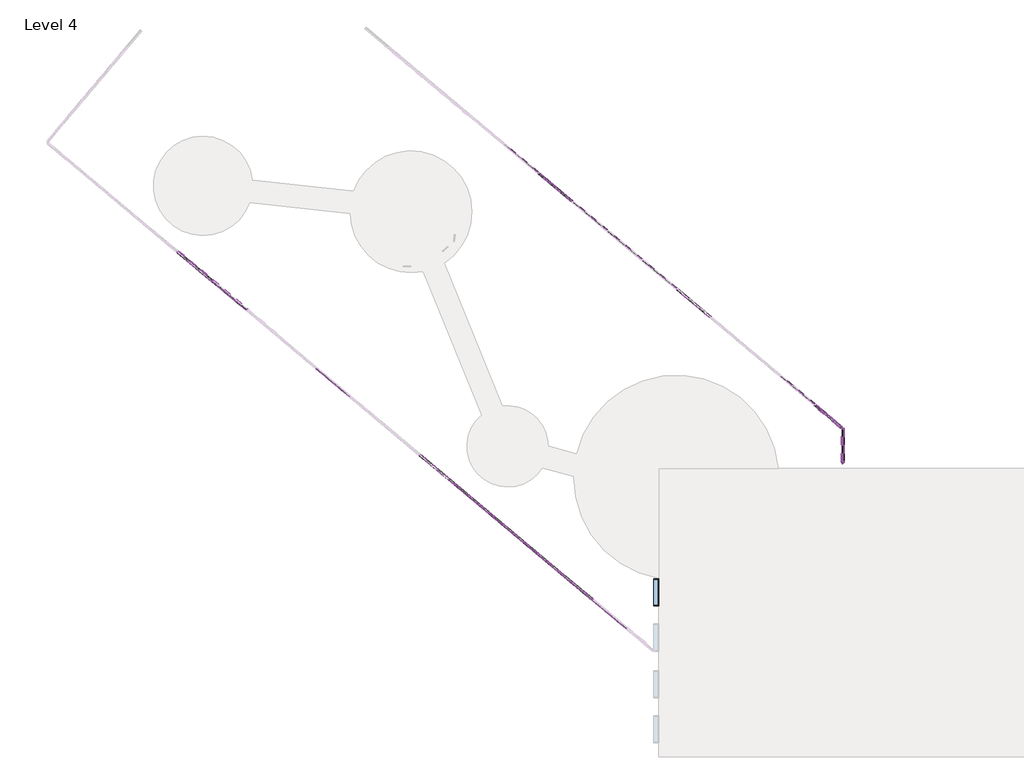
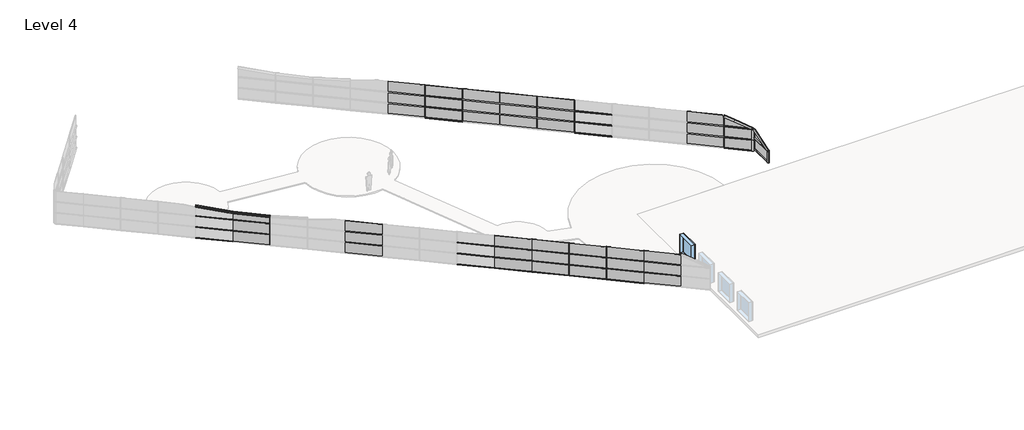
# One storey, part 2 of 4: 67 members, 44 plates, 1 window.
"""IFC4 building model written with IfcOpenShell, lengths in millimetres."""

from ifc_helpers import new_model, si_unit, origin, place, context, project, spatial, transform, mapped, element, save
from components import member_e6b937b8, member_1b704979, member_7ce4772e, member_9a31911a, member_5a82a5ce, member_eaba9652, member_34764c31, member_ec9694ca, member_e2c2cf32, member_db8f3720, member_5a81992d, member_508da999, member_c2863042, member_6fb3f5d3, member_3d656d0b, member_f7ad1dcf, system_panel_glazed_a2c5a472, system_panel_glazed_07eba4bf, system_panel_glazed_3cf833cb, system_panel_glazed_742ad3c2, system_panel_glazed_af818185, system_panel_glazed_8104afd5, system_panel_glazed_c1ebde9c, system_panel_glazed_03e450e4, fixed_6_x_6_52427b03

model = new_model("IFC4")

# Units and contexts
model_context = context("Model", 3, world=origin())
ifc_project = project(units=[si_unit("LENGTHUNIT", "METRE", prefix="MILLI")], contexts=[model_context])

# Site, building, storey
site = spatial("IfcSite", under=ifc_project)
building = spatial("IfcBuilding", under=site)
storey = spatial("IfcBuildingStorey", under=building, Name="Level 4", Elevation=9144.0)

# Members
placement = place(None, origin())
member_shape = member_e6b937b8(model_context)
element("IfcMember", 1, ObjectType="Rectangular Mullion : 1.5\" x 2.5\" rectangular", at=placement, inside=storey, context=model_context, shape_type="MappedRepresentation", body=[
    mapped(member_shape, transform((-25926.9227367, 30344.5515415, 10400.7444177), x_axis=(0.76604444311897, -0.6427876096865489, 0.0), y_axis=(0.6427876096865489, 0.76604444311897, 0.0), z_axis=(0.0, 0.0, 1.0))),
])
element("IfcMember", 2, ObjectType="Rectangular Mullion : 1.5\" x 2.5\" rectangular", at=placement, inside=storey, context=model_context, shape_type="MappedRepresentation", body=[
    mapped(member_shape, transform((-25926.9227367, 30344.5515415, 11467.5444177), x_axis=(0.76604444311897, -0.6427876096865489, 0.0), y_axis=(0.6427876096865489, 0.76604444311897, 0.0), z_axis=(0.0, 0.0, 1.0))),
])
element("IfcMember", 3, ObjectType="Rectangular Mullion : 1.5\" x 2.5\" rectangular", at=placement, inside=storey, context=model_context, shape_type="MappedRepresentation", body=[
    mapped(member_shape, transform((-25926.9227367, 30344.5515415, 12534.3444177), x_axis=(0.76604444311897, -0.6427876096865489, 0.0), y_axis=(0.6427876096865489, 0.76604444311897, 0.0), z_axis=(0.0, 0.0, 1.0))),
])
element("IfcMember", 4, ObjectType="Rectangular Mullion : 1.5\" x 2.5\" rectangular", at=placement, inside=storey, context=model_context, shape_type="MappedRepresentation", body=[
    mapped(member_shape, transform((-16587.3088862, 22507.6850042, 10400.7444177), x_axis=(0.76604444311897, -0.6427876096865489, 0.0), y_axis=(0.6427876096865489, 0.76604444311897, 0.0), z_axis=(0.0, 0.0, 1.0))),
])
element("IfcMember", 5, ObjectType="Rectangular Mullion : 1.5\" x 2.5\" rectangular", at=placement, inside=storey, context=model_context, shape_type="MappedRepresentation", body=[
    mapped(member_shape, transform((-7247.6950357, 14670.8184669, 10400.7444177), x_axis=(0.76604444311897, -0.6427876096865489, 0.0), y_axis=(0.6427876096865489, 0.76604444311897, 0.0), z_axis=(0.0, 0.0, 1.0))),
])
element("IfcMember", 6, ObjectType="Rectangular Mullion : 1.5\" x 2.5\" rectangular", at=placement, inside=storey, context=model_context, shape_type="MappedRepresentation", body=[
    mapped(member_shape, transform((-16587.3088862, 22507.6850042, 11467.5444177), x_axis=(0.76604444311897, -0.6427876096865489, 0.0), y_axis=(0.6427876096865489, 0.76604444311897, 0.0), z_axis=(0.0, 0.0, 1.0))),
])
element("IfcMember", 7, ObjectType="Rectangular Mullion : 1.5\" x 2.5\" rectangular", at=placement, inside=storey, context=model_context, shape_type="MappedRepresentation", body=[
    mapped(member_shape, transform((-7247.6950357, 14670.8184669, 11467.5444177), x_axis=(0.76604444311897, -0.6427876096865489, 0.0), y_axis=(0.6427876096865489, 0.76604444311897, 0.0), z_axis=(0.0, 0.0, 1.0))),
])
element("IfcMember", 8, ObjectType="Rectangular Mullion : 1.5\" x 2.5\" rectangular", at=placement, inside=storey, context=model_context, shape_type="MappedRepresentation", body=[
    mapped(member_shape, transform((-16587.3088862, 22507.6850042, 12534.3444177), x_axis=(0.76604444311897, -0.6427876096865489, 0.0), y_axis=(0.6427876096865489, 0.76604444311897, 0.0), z_axis=(0.0, 0.0, 1.0))),
])
element("IfcMember", 9, ObjectType="Rectangular Mullion : 1.5\" x 2.5\" rectangular", at=placement, inside=storey, context=model_context, shape_type="MappedRepresentation", body=[
    mapped(member_shape, transform((-22271.5874816, 1507.8868941, 10400.7444177), x_axis=(-0.76604444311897, 0.6427876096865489, 0.0), y_axis=(-0.6427876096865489, -0.76604444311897, 0.0), z_axis=(0.0, 0.0, 1.0))),
])
element("IfcMember", 10, ObjectType="Rectangular Mullion : 1.5\" x 2.5\" rectangular", at=placement, inside=storey, context=model_context, shape_type="MappedRepresentation", body=[
    mapped(member_shape, transform((-24606.4909442, 3467.1035284, 10400.7444177), x_axis=(-0.76604444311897, 0.6427876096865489, 0.0), y_axis=(-0.6427876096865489, -0.76604444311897, 0.0), z_axis=(0.0, 0.0, 1.0))),
])
element("IfcMember", 11, ObjectType="Rectangular Mullion : 1.5\" x 2.5\" rectangular", at=placement, inside=storey, context=model_context, shape_type="MappedRepresentation", body=[
    mapped(member_shape, transform((-26941.3944069, 5426.3201627, 10400.7444177), x_axis=(-0.76604444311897, 0.6427876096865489, 0.0), y_axis=(-0.6427876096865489, -0.76604444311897, 0.0), z_axis=(0.0, 0.0, 1.0))),
])
element("IfcMember", 12, ObjectType="Rectangular Mullion : 1.5\" x 2.5\" rectangular", at=placement, inside=storey, context=model_context, shape_type="MappedRepresentation", body=[
    mapped(member_shape, transform((-29276.2978695, 7385.536797, 10400.7444177), x_axis=(-0.76604444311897, 0.6427876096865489, 0.0), y_axis=(-0.6427876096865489, -0.76604444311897, 0.0), z_axis=(0.0, 0.0, 1.0))),
])
element("IfcMember", 13, ObjectType="Rectangular Mullion : 1.5\" x 2.5\" rectangular", at=placement, inside=storey, context=model_context, shape_type="MappedRepresentation", body=[
    mapped(member_shape, transform((-31611.2013321, 9344.7534314, 10400.7444177), x_axis=(-0.76604444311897, 0.6427876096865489, 0.0), y_axis=(-0.6427876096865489, -0.76604444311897, 0.0), z_axis=(0.0, 0.0, 1.0))),
])
element("IfcMember", 14, ObjectType="Rectangular Mullion : 1.5\" x 2.5\" rectangular", at=placement, inside=storey, context=model_context, shape_type="MappedRepresentation", body=[
    mapped(member_shape, transform((-22271.5874816, 1507.8868941, 11467.5444177), x_axis=(-0.76604444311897, 0.6427876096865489, 0.0), y_axis=(-0.6427876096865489, -0.76604444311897, 0.0), z_axis=(0.0, 0.0, 1.0))),
])
element("IfcMember", 15, ObjectType="Rectangular Mullion : 1.5\" x 2.5\" rectangular", at=placement, inside=storey, context=model_context, shape_type="MappedRepresentation", body=[
    mapped(member_shape, transform((-24606.4909442, 3467.1035284, 11467.5444177), x_axis=(-0.76604444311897, 0.6427876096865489, 0.0), y_axis=(-0.6427876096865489, -0.76604444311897, 0.0), z_axis=(0.0, 0.0, 1.0))),
])
element("IfcMember", 16, ObjectType="Rectangular Mullion : 1.5\" x 2.5\" rectangular", at=placement, inside=storey, context=model_context, shape_type="MappedRepresentation", body=[
    mapped(member_shape, transform((-26941.3944069, 5426.3201627, 11467.5444177), x_axis=(-0.76604444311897, 0.6427876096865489, 0.0), y_axis=(-0.6427876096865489, -0.76604444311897, 0.0), z_axis=(0.0, 0.0, 1.0))),
])
element("IfcMember", 17, ObjectType="Rectangular Mullion : 1.5\" x 2.5\" rectangular", at=placement, inside=storey, context=model_context, shape_type="MappedRepresentation", body=[
    mapped(member_shape, transform((-29276.2978695, 7385.536797, 11467.5444177), x_axis=(-0.76604444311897, 0.6427876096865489, 0.0), y_axis=(-0.6427876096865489, -0.76604444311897, 0.0), z_axis=(0.0, 0.0, 1.0))),
])
element("IfcMember", 18, ObjectType="Rectangular Mullion : 1.5\" x 2.5\" rectangular", at=placement, inside=storey, context=model_context, shape_type="MappedRepresentation", body=[
    mapped(member_shape, transform((-31611.2013321, 9344.7534314, 11467.5444177), x_axis=(-0.76604444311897, 0.6427876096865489, 0.0), y_axis=(-0.6427876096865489, -0.76604444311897, 0.0), z_axis=(0.0, 0.0, 1.0))),
])
element("IfcMember", 19, ObjectType="Rectangular Mullion : 1.5\" x 2.5\" rectangular", at=placement, inside=storey, context=model_context, shape_type="MappedRepresentation", body=[
    mapped(member_shape, transform((-24606.4909442, 3467.1035284, 12534.3444177), x_axis=(-0.76604444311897, 0.6427876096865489, 0.0), y_axis=(-0.6427876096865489, -0.76604444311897, 0.0), z_axis=(0.0, 0.0, 1.0))),
])
element("IfcMember", 20, ObjectType="Rectangular Mullion : 1.5\" x 2.5\" rectangular", at=placement, inside=storey, context=model_context, shape_type="MappedRepresentation", body=[
    mapped(member_shape, transform((-26941.3944069, 5426.3201627, 12534.3444177), x_axis=(-0.76604444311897, 0.6427876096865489, 0.0), y_axis=(-0.6427876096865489, -0.76604444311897, 0.0), z_axis=(0.0, 0.0, 1.0))),
])
element("IfcMember", 21, ObjectType="Rectangular Mullion : 1.5\" x 2.5\" rectangular", at=placement, inside=storey, context=model_context, shape_type="MappedRepresentation", body=[
    mapped(member_shape, transform((-29276.2978695, 7385.536797, 12534.3444177), x_axis=(-0.76604444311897, 0.6427876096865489, 0.0), y_axis=(-0.6427876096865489, -0.76604444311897, 0.0), z_axis=(0.0, 0.0, 1.0))),
])
element("IfcMember", 22, ObjectType="Rectangular Mullion : 1.5\" x 2.5\" rectangular", at=placement, inside=storey, context=model_context, shape_type="MappedRepresentation", body=[
    mapped(member_shape, transform((-31611.2013321, 9344.7534314, 12534.3444177), x_axis=(-0.76604444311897, 0.6427876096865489, 0.0), y_axis=(-0.6427876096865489, -0.76604444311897, 0.0), z_axis=(0.0, 0.0, 1.0))),
])
element("IfcMember", 23, ObjectType="Rectangular Mullion : 1.5\" x 2.5\" rectangular", at=placement, inside=storey, context=model_context, shape_type="MappedRepresentation", body=[
    mapped(member_shape, transform((-22271.5874816, 1507.8868941, 12534.3444177), x_axis=(-0.76604444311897, 0.6427876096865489, 0.0), y_axis=(-0.6427876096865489, -0.76604444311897, 0.0), z_axis=(0.0, 0.0, 1.0))),
])
element("IfcMember", 24, ObjectType="Rectangular Mullion : 1.5\" x 2.5\" rectangular", at=placement, inside=storey, context=model_context, shape_type="MappedRepresentation", body=[
    mapped(member_shape, transform((-47955.5255705, 23059.2698716, 10400.7444177), x_axis=(-0.76604444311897, 0.6427876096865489, 0.0), y_axis=(-0.6427876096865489, -0.76604444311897, 0.0), z_axis=(0.0, 0.0, 1.0))),
])
element("IfcMember", 25, ObjectType="Rectangular Mullion : 1.5\" x 2.5\" rectangular", at=placement, inside=storey, context=model_context, shape_type="MappedRepresentation", body=[
    mapped(member_shape, transform((-47955.5255705, 23059.2698716, 11467.5444177), x_axis=(-0.76604444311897, 0.6427876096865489, 0.0), y_axis=(-0.6427876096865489, -0.76604444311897, 0.0), z_axis=(0.0, 0.0, 1.0))),
])
member_2_shape = member_1b704979(model_context)
element("IfcMember", 26, ObjectType="Rectangular Mullion : 1.5\" x 2.5\" rectangular", at=placement, inside=storey, context=model_context, shape_type="MappedRepresentation", body=[
    mapped(member_2_shape, transform((-5348.7113943, 13077.3819938, 9601.2), x_axis=(0.0, 1.0, 0.0), y_axis=(1.0, 0.0, 0.0), z_axis=(0.0, 0.0, -1.0))),
])
member_3_shape = member_7ce4772e(model_context)
element("IfcMember", 27, ObjectType="Rectangular Mullion : 1.5\" x 2.5\" rectangular", at=placement, inside=storey, context=model_context, shape_type="MappedRepresentation", body=[
    mapped(member_3_shape, transform((-5348.7113943, 13077.3819938, 10668.0), x_axis=(0.0, 1.0, 0.0), y_axis=(1.0, 0.0, 0.0), z_axis=(0.0, 0.0, -1.0))),
])
member_4_shape = member_9a31911a(model_context)
element("IfcMember", 28, ObjectType="Rectangular Mullion : 1.5\" x 2.5\" rectangular", at=placement, inside=storey, context=model_context, shape_type="MappedRepresentation", body=[
    mapped(member_4_shape, transform((-47955.5255705, 23059.2698716, 12182.7648811), x_axis=(-0.76604444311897, 0.6427876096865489, 0.0), y_axis=(-0.6427876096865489, -0.76604444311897, 0.0), z_axis=(0.0, 0.0, 1.0))),
])
member_5_shape = member_5a82a5ce(model_context)
element("IfcMember", 29, ObjectType="Rectangular Mullion : 1.5\" x 2.5\" rectangular", at=placement, inside=storey, context=model_context, shape_type="MappedRepresentation", body=[
    mapped(member_5_shape, transform((-7247.6950357, 14670.8184669, 12504.5952996), x_axis=(0.76604444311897, -0.6427876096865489, 0.0), y_axis=(0.6427876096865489, 0.76604444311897, 0.0), z_axis=(0.0, 0.0, 1.0))),
])
member_6_shape = member_eaba9652(model_context)
element("IfcMember", 30, ObjectType="Rectangular Mullion : 2.5\" x 5\" rectangular", at=placement, inside=storey, context=model_context, shape_type="MappedRepresentation", body=[
    mapped(member_6_shape, transform((-25926.9227367, 30344.5515415, 9365.6944177), x_axis=(0.0, 0.0, 1.0), y_axis=(0.642787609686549, 0.76604444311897, 0.0), z_axis=(-0.7660444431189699, 0.6427876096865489, 0.0))),
])
element("IfcMember", 31, ObjectType="Rectangular Mullion : 2.5\" x 5\" rectangular", at=placement, inside=storey, context=model_context, shape_type="MappedRepresentation", body=[
    mapped(member_6_shape, transform((-25926.9227367, 30344.5515415, 10432.4944177), x_axis=(0.0, 0.0, 1.0), y_axis=(0.6427876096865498, 0.7660444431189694, 0.0), z_axis=(-0.7660444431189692, 0.6427876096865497, 0.0))),
])
element("IfcMember", 32, ObjectType="Rectangular Mullion : 2.5\" x 5\" rectangular", at=placement, inside=storey, context=model_context, shape_type="MappedRepresentation", body=[
    mapped(member_6_shape, transform((-25926.9227367, 30344.5515415, 11499.2944177), x_axis=(0.0, 0.0, 1.0), y_axis=(0.642787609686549, 0.76604444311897, 0.0), z_axis=(-0.7660444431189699, 0.6427876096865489, 0.0))),
])
element("IfcMember", 33, ObjectType="Rectangular Mullion : 2.5\" x 5\" rectangular", at=placement, inside=storey, context=model_context, shape_type="MappedRepresentation", body=[
    mapped(member_6_shape, transform((-16587.3088862, 22507.6850042, 9365.6944177), x_axis=(0.0, 0.0, 1.0), y_axis=(0.6427876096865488, 0.7660444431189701, 0.0), z_axis=(-0.7660444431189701, 0.6427876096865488, 0.0))),
])
element("IfcMember", 34, ObjectType="Rectangular Mullion : 2.5\" x 5\" rectangular", at=placement, inside=storey, context=model_context, shape_type="MappedRepresentation", body=[
    mapped(member_6_shape, transform((-16587.3088862, 22507.6850042, 10432.4944177), x_axis=(0.0, 0.0, 1.0), y_axis=(0.6427876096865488, 0.7660444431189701, 0.0), z_axis=(-0.7660444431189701, 0.6427876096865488, 0.0))),
])
element("IfcMember", 35, ObjectType="Rectangular Mullion : 2.5\" x 5\" rectangular", at=placement, inside=storey, context=model_context, shape_type="MappedRepresentation", body=[
    mapped(member_6_shape, transform((-16587.3088862, 22507.6850042, 11499.2944177), x_axis=(0.0, 0.0, 1.0), y_axis=(0.6427876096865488, 0.7660444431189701, 0.0), z_axis=(-0.7660444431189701, 0.6427876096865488, 0.0))),
])
element("IfcMember", 36, ObjectType="Rectangular Mullion : 2.5\" x 5\" rectangular", at=placement, inside=storey, context=model_context, shape_type="MappedRepresentation", body=[
    mapped(member_6_shape, transform((-22271.5874816, 1507.8868941, 9365.6944177), x_axis=(0.0, 0.0, 1.0), y_axis=(-0.6427876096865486, -0.7660444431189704, 0.0), z_axis=(0.7660444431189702, -0.6427876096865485, 0.0))),
])
element("IfcMember", 37, ObjectType="Rectangular Mullion : 2.5\" x 5\" rectangular", at=placement, inside=storey, context=model_context, shape_type="MappedRepresentation", body=[
    mapped(member_6_shape, transform((-24606.4909442, 3467.1035284, 9365.6944177), x_axis=(0.0, 0.0, 1.0), y_axis=(-0.6427876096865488, -0.7660444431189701, 0.0), z_axis=(0.7660444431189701, -0.6427876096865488, 0.0))),
])
element("IfcMember", 38, ObjectType="Rectangular Mullion : 2.5\" x 5\" rectangular", at=placement, inside=storey, context=model_context, shape_type="MappedRepresentation", body=[
    mapped(member_6_shape, transform((-26941.3944069, 5426.3201627, 9365.6944177), x_axis=(0.0, 0.0, 1.0), y_axis=(-0.6427876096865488, -0.7660444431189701, 0.0), z_axis=(0.7660444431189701, -0.6427876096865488, 0.0))),
])
element("IfcMember", 39, ObjectType="Rectangular Mullion : 2.5\" x 5\" rectangular", at=placement, inside=storey, context=model_context, shape_type="MappedRepresentation", body=[
    mapped(member_6_shape, transform((-29276.2978695, 7385.536797, 9365.6944177), x_axis=(0.0, 0.0, 1.0), y_axis=(-0.6427876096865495, -0.7660444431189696, 0.0), z_axis=(0.7660444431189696, -0.6427876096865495, 0.0))),
])
element("IfcMember", 40, ObjectType="Rectangular Mullion : 2.5\" x 5\" rectangular", at=placement, inside=storey, context=model_context, shape_type="MappedRepresentation", body=[
    mapped(member_6_shape, transform((-31611.2013321, 9344.7534314, 9365.6944177), x_axis=(0.0, 0.0, 1.0), y_axis=(-0.6427876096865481, -0.7660444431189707, 0.0), z_axis=(0.7660444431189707, -0.6427876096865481, 0.0))),
])
element("IfcMember", 41, ObjectType="Rectangular Mullion : 2.5\" x 5\" rectangular", at=placement, inside=storey, context=model_context, shape_type="MappedRepresentation", body=[
    mapped(member_6_shape, transform((-22271.5874816, 1507.8868941, 10432.4944177), x_axis=(0.0, 0.0, 1.0), y_axis=(-0.6427876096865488, -0.7660444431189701, 0.0), z_axis=(0.7660444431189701, -0.6427876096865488, 0.0))),
])
element("IfcMember", 42, ObjectType="Rectangular Mullion : 2.5\" x 5\" rectangular", at=placement, inside=storey, context=model_context, shape_type="MappedRepresentation", body=[
    mapped(member_6_shape, transform((-24606.4909442, 3467.1035284, 10432.4944177), x_axis=(0.0, 0.0, 1.0), y_axis=(-0.6427876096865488, -0.7660444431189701, 0.0), z_axis=(0.7660444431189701, -0.6427876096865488, 0.0))),
])
element("IfcMember", 43, ObjectType="Rectangular Mullion : 2.5\" x 5\" rectangular", at=placement, inside=storey, context=model_context, shape_type="MappedRepresentation", body=[
    mapped(member_6_shape, transform((-26941.3944069, 5426.3201627, 10432.4944177), x_axis=(0.0, 0.0, 1.0), y_axis=(-0.6427876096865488, -0.7660444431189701, 0.0), z_axis=(0.7660444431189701, -0.6427876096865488, 0.0))),
])
element("IfcMember", 44, ObjectType="Rectangular Mullion : 2.5\" x 5\" rectangular", at=placement, inside=storey, context=model_context, shape_type="MappedRepresentation", body=[
    mapped(member_6_shape, transform((-29276.2978695, 7385.536797, 10432.4944177), x_axis=(0.0, 0.0, 1.0), y_axis=(-0.6427876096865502, -0.7660444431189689, 0.0), z_axis=(0.7660444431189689, -0.6427876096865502, 0.0))),
])
element("IfcMember", 45, ObjectType="Rectangular Mullion : 2.5\" x 5\" rectangular", at=placement, inside=storey, context=model_context, shape_type="MappedRepresentation", body=[
    mapped(member_6_shape, transform((-31611.2013321, 9344.7534314, 10432.4944177), x_axis=(0.0, 0.0, 1.0), y_axis=(-0.6427876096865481, -0.7660444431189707, 0.0), z_axis=(0.7660444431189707, -0.6427876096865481, 0.0))),
])
element("IfcMember", 46, ObjectType="Rectangular Mullion : 2.5\" x 5\" rectangular", at=placement, inside=storey, context=model_context, shape_type="MappedRepresentation", body=[
    mapped(member_6_shape, transform((-22271.5874816, 1507.8868941, 11499.2944177), x_axis=(0.0, 0.0, 1.0), y_axis=(-0.6427876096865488, -0.7660444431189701, 0.0), z_axis=(0.7660444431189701, -0.6427876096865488, 0.0))),
])
element("IfcMember", 47, ObjectType="Rectangular Mullion : 2.5\" x 5\" rectangular", at=placement, inside=storey, context=model_context, shape_type="MappedRepresentation", body=[
    mapped(member_6_shape, transform((-24606.4909442, 3467.1035284, 11499.2944177), x_axis=(0.0, 0.0, 1.0), y_axis=(-0.6427876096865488, -0.7660444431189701, 0.0), z_axis=(0.7660444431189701, -0.6427876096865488, 0.0))),
])
element("IfcMember", 48, ObjectType="Rectangular Mullion : 2.5\" x 5\" rectangular", at=placement, inside=storey, context=model_context, shape_type="MappedRepresentation", body=[
    mapped(member_6_shape, transform((-26941.3944069, 5426.3201627, 11499.2944177), x_axis=(0.0, 0.0, 1.0), y_axis=(-0.6427876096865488, -0.7660444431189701, 0.0), z_axis=(0.7660444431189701, -0.6427876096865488, 0.0))),
])
element("IfcMember", 49, ObjectType="Rectangular Mullion : 2.5\" x 5\" rectangular", at=placement, inside=storey, context=model_context, shape_type="MappedRepresentation", body=[
    mapped(member_6_shape, transform((-29276.2978695, 7385.536797, 11499.2944177), x_axis=(0.0, 0.0, 1.0), y_axis=(-0.6427876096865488, -0.7660444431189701, 0.0), z_axis=(0.7660444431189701, -0.6427876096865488, 0.0))),
])
element("IfcMember", 50, ObjectType="Rectangular Mullion : 2.5\" x 5\" rectangular", at=placement, inside=storey, context=model_context, shape_type="MappedRepresentation", body=[
    mapped(member_6_shape, transform((-31611.2013321, 9344.7534314, 11499.2944177), x_axis=(0.0, 0.0, 1.0), y_axis=(-0.6427876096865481, -0.7660444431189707, 0.0), z_axis=(0.7660444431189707, -0.6427876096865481, 0.0))),
])
element("IfcMember", 51, ObjectType="Rectangular Mullion : 2.5\" x 5\" rectangular", at=placement, inside=storey, context=model_context, shape_type="MappedRepresentation", body=[
    mapped(member_6_shape, transform((-47955.5255705, 23059.2698716, 9365.6944177), x_axis=(0.0, 0.0, 1.0), y_axis=(-0.642787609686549, -0.76604444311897, 0.0), z_axis=(0.7660444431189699, -0.6427876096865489, 0.0))),
])
element("IfcMember", 52, ObjectType="Rectangular Mullion : 2.5\" x 5\" rectangular", at=placement, inside=storey, context=model_context, shape_type="MappedRepresentation", body=[
    mapped(member_6_shape, transform((-47955.5255705, 23059.2698716, 10432.4944177), x_axis=(0.0, 0.0, 1.0), y_axis=(-0.642787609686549, -0.76604444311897, 0.0), z_axis=(0.7660444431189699, -0.6427876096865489, 0.0))),
])
element("IfcMember", 53, ObjectType="Rectangular Mullion : 2.5\" x 5\" rectangular", at=placement, inside=storey, context=model_context, shape_type="MappedRepresentation", body=[
    mapped(member_6_shape, transform((-47955.5255705, 23059.2698716, 11499.2944177), x_axis=(0.0, 0.0, 1.0), y_axis=(-0.642787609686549, -0.76604444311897, 0.0), z_axis=(0.7660444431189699, -0.6427876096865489, 0.0))),
])
member_7_shape = member_34764c31(model_context)
element("IfcMember", 54, ObjectType="Rectangular Mullion : 2.5\" x 5\" rectangular", at=placement, inside=storey, context=model_context, shape_type="MappedRepresentation", body=[
    mapped(member_7_shape, transform((-5348.7113943, 13039.2819938, 9601.2), x_axis=(0.0, 0.0, 1.0), y_axis=(1.0, 0.0, 0.0), z_axis=(0.0, 1.0, 0.0))),
])
element("IfcMember", 55, ObjectType="Rectangular Mullion : 2.5\" x 5\" rectangular", at=placement, inside=storey, context=model_context, shape_type="MappedRepresentation", body=[
    mapped(member_7_shape, transform((-5348.7113943, 13039.2819938, 10668.0), x_axis=(0.0, 0.0, 1.0), y_axis=(1.0, 0.0, 0.0), z_axis=(0.0, 1.0, 0.0))),
])
member_8_shape = member_ec9694ca(model_context)
element("IfcMember", 56, ObjectType="Rectangular Mullion : 2.5\" x 5\" rectangular", at=placement, inside=storey, context=model_context, shape_type="MappedRepresentation", body=[
    mapped(member_8_shape, transform((-7247.6950357, 14670.8184669, 9365.6944177), x_axis=(0.0, 0.0, 1.0), y_axis=(0.6427876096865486, 0.7660444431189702, 0.0), z_axis=(-0.7660444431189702, 0.6427876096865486, 0.0))),
])
element("IfcMember", 57, ObjectType="Rectangular Mullion : 2.5\" x 5\" rectangular", at=placement, inside=storey, context=model_context, shape_type="MappedRepresentation", body=[
    mapped(member_8_shape, transform((-7247.6950357, 14670.8184669, 10432.4944177), x_axis=(0.0, 0.0, 1.0), y_axis=(0.6427876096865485, 0.7660444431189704, 0.0), z_axis=(-0.7660444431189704, 0.6427876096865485, 0.0))),
])
element("IfcMember", 58, ObjectType="Rectangular Mullion : 2.5\" x 5\" rectangular", at=placement, inside=storey, context=model_context, shape_type="MappedRepresentation", body=[
    mapped(member_8_shape, transform((-7247.6950357, 14670.8184669, 11499.2944177), x_axis=(0.0, 0.0, 1.0), y_axis=(0.6427876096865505, 0.7660444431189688, 0.0), z_axis=(-0.7660444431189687, 0.6427876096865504, 0.0))),
])
member_9_shape = member_e2c2cf32(model_context)
element("IfcMember", 59, ObjectType="V Corner Mullion : 5\" V Corner", at=placement, inside=storey, context=model_context, shape_type="MappedRepresentation", body=[
    mapped(member_9_shape, transform((-5348.7113943, 10769.3870607, 10755.9291819), x_axis=(0.0, -1.0, 0.0), y_axis=(1.0, 0.0, 0.0), z_axis=(0.0, 0.0, 1.0))),
])
member_10_shape = member_db8f3720(model_context)
element("IfcMember", 60, ObjectType="V Corner Mullion : 5\" V Corner", at=placement, inside=storey, context=model_context, shape_type="MappedRepresentation", body=[
    mapped(member_10_shape, transform((-5348.7113943, 10769.3870607, 10668.0), x_axis=(0.0, -1.0, 0.0), y_axis=(1.0, 0.0, 0.0), z_axis=(0.0, 0.0, 1.0))),
])
element("IfcMember", 61, ObjectType="V Corner Mullion : 5\" V Corner", at=placement, inside=storey, context=model_context, shape_type="MappedRepresentation", body=[
    mapped(member_10_shape, transform((-5440.5496741, 13154.4434605, 10432.4944177), x_axis=(0.76604444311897, -0.6427876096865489, 0.0), y_axis=(0.6427876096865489, 0.76604444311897, 0.0), z_axis=(0.0, 0.0, 1.0))),
])
member_11_shape = member_5a81992d(model_context)
element("IfcMember", 62, ObjectType="V Corner Mullion : 5\" V Corner", at=placement, inside=storey, context=model_context, shape_type="MappedRepresentation", body=[
    mapped(member_11_shape, transform((-5348.7113943, 13077.3819938, 11473.8355), x_axis=(0.0, -0.29701504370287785, 0.9548727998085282), y_axis=(1.0, 0.0, 0.0), z_axis=(0.0, 0.9548727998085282, 0.29701504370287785))),
])
member_12_shape = member_508da999(model_context)
element("IfcMember", 63, ObjectType="V Corner Mullion : 5\" V Corner", at=placement, inside=storey, context=model_context, shape_type="MappedRepresentation", body=[
    mapped(member_12_shape, transform((-45620.6221079, 21100.0532373, 12145.301661), x_axis=(0.00941480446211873, -0.007899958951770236, 0.9999244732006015), y_axis=(-0.6427876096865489, -0.76604444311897, 0.0), z_axis=(0.7659865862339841, -0.6427390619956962, -0.012290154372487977))),
])
member_13_shape = member_c2863042(model_context)
element("IfcMember", 64, ObjectType="V Corner Mullion : 5\" V Corner", at=placement, inside=storey, context=model_context, shape_type="MappedRepresentation", body=[
    mapped(member_13_shape, transform((-47955.5255705, 23059.2698716, 12182.7648811), x_axis=(0.06462452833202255, -0.05422641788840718, 0.9964352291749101), y_axis=(-0.6427876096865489, -0.7660444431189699, 0.0), z_axis=(0.7633136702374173, -0.6404962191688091, -0.08436133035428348))),
])
member_14_shape = member_6fb3f5d3(model_context)
element("IfcMember", 65, ObjectType="V Corner Mullion : 5\" V Corner", at=placement, inside=storey, context=model_context, shape_type="MappedRepresentation", body=[
    mapped(member_14_shape, transform((-7247.6950357, 14670.8184669, 12504.5952996), x_axis=(0.2777045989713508, -0.23302182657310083, 0.9319769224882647), y_axis=(0.642787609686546, 0.7660444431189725, 0.0), z_axis=(-0.7139357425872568, 0.5990632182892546, 0.36251760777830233))),
])
member_15_shape = member_3d656d0b(model_context)
element("IfcMember", 66, ObjectType="V Corner Mullion : 5\" V Corner", at=placement, inside=storey, context=model_context, shape_type="MappedRepresentation", body=[
    mapped(member_15_shape, transform((-6591.8888854, 14120.5317681, 12171.5943549), x_axis=(0.3013718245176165, -0.25288098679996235, 0.919361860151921), y_axis=(0.6427876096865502, 0.766044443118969, 0.0), z_axis=(-0.7042720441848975, 0.5909544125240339, 0.393412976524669))),
])
member_16_shape = member_f7ad1dcf(model_context)
element("IfcMember", 67, ObjectType="V Corner Mullion : 5\" V Corner", at=placement, inside=storey, context=model_context, shape_type="MappedRepresentation", body=[
    mapped(member_16_shape, transform((-5440.5496741, 13154.4434605, 11531.0444177), x_axis=(0.76604444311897, -0.6427876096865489, 0.0), y_axis=(0.6427876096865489, 0.76604444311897, 0.0), z_axis=(0.0, 0.0, 1.0))),
])

# Plates
system_panel_glazed_shape = system_panel_glazed_a2c5a472(model_context)
element("IfcPlate", 68, ObjectType="System Panel : Glazed", at=placement, inside=storey, context=model_context, shape_type="MappedRepresentation", body=[
    mapped(system_panel_glazed_shape, transform((-21104.1357503, 528.2785769, 9397.4444177), x_axis=(-0.76604444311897, 0.6427876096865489, 0.0), y_axis=(-0.6427876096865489, -0.76604444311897, 0.0), z_axis=(0.0, 0.0, 1.0))),
])
element("IfcPlate", 69, ObjectType="System Panel : Glazed", at=placement, inside=storey, context=model_context, shape_type="MappedRepresentation", body=[
    mapped(system_panel_glazed_shape, transform((-23439.0392129, 2487.4952112, 9397.4444177), x_axis=(-0.76604444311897, 0.6427876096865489, 0.0), y_axis=(-0.6427876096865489, -0.76604444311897, 0.0), z_axis=(0.0, 0.0, 1.0))),
])
element("IfcPlate", 70, ObjectType="System Panel : Glazed", at=placement, inside=storey, context=model_context, shape_type="MappedRepresentation", body=[
    mapped(system_panel_glazed_shape, transform((-25773.9426755, 4446.7118456, 9397.4444177), x_axis=(-0.76604444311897, 0.6427876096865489, 0.0), y_axis=(-0.6427876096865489, -0.76604444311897, 0.0), z_axis=(0.0, 0.0, 1.0))),
])
element("IfcPlate", 71, ObjectType="System Panel : Glazed", at=placement, inside=storey, context=model_context, shape_type="MappedRepresentation", body=[
    mapped(system_panel_glazed_shape, transform((-28108.8461382, 6405.9284799, 9397.4444177), x_axis=(-0.76604444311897, 0.6427876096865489, 0.0), y_axis=(-0.6427876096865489, -0.76604444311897, 0.0), z_axis=(0.0, 0.0, 1.0))),
])
element("IfcPlate", 72, ObjectType="System Panel : Glazed", at=placement, inside=storey, context=model_context, shape_type="MappedRepresentation", body=[
    mapped(system_panel_glazed_shape, transform((-30443.7496008, 8365.1451142, 9397.4444177), x_axis=(-0.76604444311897, 0.6427876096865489, 0.0), y_axis=(-0.6427876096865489, -0.76604444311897, 0.0), z_axis=(0.0, 0.0, 1.0))),
])
element("IfcPlate", 73, ObjectType="System Panel : Glazed", at=placement, inside=storey, context=model_context, shape_type="MappedRepresentation", body=[
    mapped(system_panel_glazed_shape, transform((-39783.3634513, 16202.0116515, 9397.4444177), x_axis=(-0.76604444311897, 0.6427876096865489, 0.0), y_axis=(-0.6427876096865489, -0.76604444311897, 0.0), z_axis=(0.0, 0.0, 1.0))),
])
element("IfcPlate", 74, ObjectType="System Panel : Glazed", at=placement, inside=storey, context=model_context, shape_type="MappedRepresentation", body=[
    mapped(system_panel_glazed_shape, transform((-21104.1357503, 528.2785769, 10464.2444177), x_axis=(-0.76604444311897, 0.6427876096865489, 0.0), y_axis=(-0.6427876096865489, -0.76604444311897, 0.0), z_axis=(0.0, 0.0, 1.0))),
])
element("IfcPlate", 75, ObjectType="System Panel : Glazed", at=placement, inside=storey, context=model_context, shape_type="MappedRepresentation", body=[
    mapped(system_panel_glazed_shape, transform((-23439.0392129, 2487.4952112, 10464.2444177), x_axis=(-0.76604444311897, 0.6427876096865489, 0.0), y_axis=(-0.6427876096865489, -0.76604444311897, 0.0), z_axis=(0.0, 0.0, 1.0))),
])
element("IfcPlate", 76, ObjectType="System Panel : Glazed", at=placement, inside=storey, context=model_context, shape_type="MappedRepresentation", body=[
    mapped(system_panel_glazed_shape, transform((-25773.9426755, 4446.7118456, 10464.2444177), x_axis=(-0.76604444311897, 0.6427876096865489, 0.0), y_axis=(-0.6427876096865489, -0.76604444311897, 0.0), z_axis=(0.0, 0.0, 1.0))),
])
element("IfcPlate", 77, ObjectType="System Panel : Glazed", at=placement, inside=storey, context=model_context, shape_type="MappedRepresentation", body=[
    mapped(system_panel_glazed_shape, transform((-28108.8461382, 6405.9284799, 10464.2444177), x_axis=(-0.76604444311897, 0.6427876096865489, 0.0), y_axis=(-0.6427876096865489, -0.76604444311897, 0.0), z_axis=(0.0, 0.0, 1.0))),
])
element("IfcPlate", 78, ObjectType="System Panel : Glazed", at=placement, inside=storey, context=model_context, shape_type="MappedRepresentation", body=[
    mapped(system_panel_glazed_shape, transform((-30443.7496008, 8365.1451142, 10464.2444177), x_axis=(-0.76604444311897, 0.6427876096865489, 0.0), y_axis=(-0.6427876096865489, -0.76604444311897, 0.0), z_axis=(0.0, 0.0, 1.0))),
])
element("IfcPlate", 79, ObjectType="System Panel : Glazed", at=placement, inside=storey, context=model_context, shape_type="MappedRepresentation", body=[
    mapped(system_panel_glazed_shape, transform((-39783.3634513, 16202.0116515, 10464.2444177), x_axis=(-0.76604444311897, 0.6427876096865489, 0.0), y_axis=(-0.6427876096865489, -0.76604444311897, 0.0), z_axis=(0.0, 0.0, 1.0))),
])
element("IfcPlate", 80, ObjectType="System Panel : Glazed", at=placement, inside=storey, context=model_context, shape_type="MappedRepresentation", body=[
    mapped(system_panel_glazed_shape, transform((-23439.0392129, 2487.4952112, 11531.0444177), x_axis=(-0.76604444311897, 0.6427876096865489, 0.0), y_axis=(-0.6427876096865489, -0.76604444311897, 0.0), z_axis=(0.0, 0.0, 1.0))),
])
element("IfcPlate", 81, ObjectType="System Panel : Glazed", at=placement, inside=storey, context=model_context, shape_type="MappedRepresentation", body=[
    mapped(system_panel_glazed_shape, transform((-25773.9426755, 4446.7118456, 11531.0444177), x_axis=(-0.76604444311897, 0.6427876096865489, 0.0), y_axis=(-0.6427876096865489, -0.76604444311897, 0.0), z_axis=(0.0, 0.0, 1.0))),
])
element("IfcPlate", 82, ObjectType="System Panel : Glazed", at=placement, inside=storey, context=model_context, shape_type="MappedRepresentation", body=[
    mapped(system_panel_glazed_shape, transform((-28108.8461382, 6405.9284799, 11531.0444177), x_axis=(-0.76604444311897, 0.6427876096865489, 0.0), y_axis=(-0.6427876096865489, -0.76604444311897, 0.0), z_axis=(0.0, 0.0, 1.0))),
])
element("IfcPlate", 83, ObjectType="System Panel : Glazed", at=placement, inside=storey, context=model_context, shape_type="MappedRepresentation", body=[
    mapped(system_panel_glazed_shape, transform((-30443.7496008, 8365.1451142, 11531.0444177), x_axis=(-0.76604444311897, 0.6427876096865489, 0.0), y_axis=(-0.6427876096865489, -0.76604444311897, 0.0), z_axis=(0.0, 0.0, 1.0))),
])
element("IfcPlate", 84, ObjectType="System Panel : Glazed", at=placement, inside=storey, context=model_context, shape_type="MappedRepresentation", body=[
    mapped(system_panel_glazed_shape, transform((-39783.3634513, 16202.0116515, 11531.0444177), x_axis=(-0.76604444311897, 0.6427876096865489, 0.0), y_axis=(-0.6427876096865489, -0.76604444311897, 0.0), z_axis=(0.0, 0.0, 1.0))),
])
element("IfcPlate", 85, ObjectType="System Panel : Glazed", at=placement, inside=storey, context=model_context, shape_type="MappedRepresentation", body=[
    mapped(system_panel_glazed_shape, transform((-27094.3744681, 31324.1598587, 9397.4444177), x_axis=(0.76604444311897, -0.6427876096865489, 0.0), y_axis=(0.6427876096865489, 0.76604444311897, 0.0), z_axis=(0.0, 0.0, 1.0))),
])
element("IfcPlate", 86, ObjectType="System Panel : Glazed", at=placement, inside=storey, context=model_context, shape_type="MappedRepresentation", body=[
    mapped(system_panel_glazed_shape, transform((-24759.4710054, 29364.9432244, 9397.4444177), x_axis=(0.76604444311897, -0.6427876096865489, 0.0), y_axis=(0.6427876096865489, 0.76604444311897, 0.0), z_axis=(0.0, 0.0, 1.0))),
])
element("IfcPlate", 87, ObjectType="System Panel : Glazed", at=placement, inside=storey, context=model_context, shape_type="MappedRepresentation", body=[
    mapped(system_panel_glazed_shape, transform((-22424.5675428, 27405.72659, 9397.4444177), x_axis=(0.76604444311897, -0.6427876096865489, 0.0), y_axis=(0.6427876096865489, 0.76604444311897, 0.0), z_axis=(0.0, 0.0, 1.0))),
])
element("IfcPlate", 88, ObjectType="System Panel : Glazed", at=placement, inside=storey, context=model_context, shape_type="MappedRepresentation", body=[
    mapped(system_panel_glazed_shape, transform((-20089.6640802, 25446.5099557, 9397.4444177), x_axis=(0.76604444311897, -0.6427876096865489, 0.0), y_axis=(0.6427876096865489, 0.76604444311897, 0.0), z_axis=(0.0, 0.0, 1.0))),
])
element("IfcPlate", 89, ObjectType="System Panel : Glazed", at=placement, inside=storey, context=model_context, shape_type="MappedRepresentation", body=[
    mapped(system_panel_glazed_shape, transform((-27094.3744681, 31324.1598587, 10464.2444177), x_axis=(0.76604444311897, -0.6427876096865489, 0.0), y_axis=(0.6427876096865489, 0.76604444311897, 0.0), z_axis=(0.0, 0.0, 1.0))),
])
element("IfcPlate", 90, ObjectType="System Panel : Glazed", at=placement, inside=storey, context=model_context, shape_type="MappedRepresentation", body=[
    mapped(system_panel_glazed_shape, transform((-24759.4710054, 29364.9432244, 10464.2444177), x_axis=(0.76604444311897, -0.6427876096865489, 0.0), y_axis=(0.6427876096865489, 0.76604444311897, 0.0), z_axis=(0.0, 0.0, 1.0))),
])
element("IfcPlate", 91, ObjectType="System Panel : Glazed", at=placement, inside=storey, context=model_context, shape_type="MappedRepresentation", body=[
    mapped(system_panel_glazed_shape, transform((-22424.5675428, 27405.72659, 10464.2444177), x_axis=(0.76604444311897, -0.6427876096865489, 0.0), y_axis=(0.6427876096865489, 0.76604444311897, 0.0), z_axis=(0.0, 0.0, 1.0))),
])
element("IfcPlate", 92, ObjectType="System Panel : Glazed", at=placement, inside=storey, context=model_context, shape_type="MappedRepresentation", body=[
    mapped(system_panel_glazed_shape, transform((-20089.6640802, 25446.5099557, 10464.2444177), x_axis=(0.76604444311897, -0.6427876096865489, 0.0), y_axis=(0.6427876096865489, 0.76604444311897, 0.0), z_axis=(0.0, 0.0, 1.0))),
])
element("IfcPlate", 93, ObjectType="System Panel : Glazed", at=placement, inside=storey, context=model_context, shape_type="MappedRepresentation", body=[
    mapped(system_panel_glazed_shape, transform((-27094.3744681, 31324.1598587, 11531.0444177), x_axis=(0.76604444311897, -0.6427876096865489, 0.0), y_axis=(0.6427876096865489, 0.76604444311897, 0.0), z_axis=(0.0, 0.0, 1.0))),
])
element("IfcPlate", 94, ObjectType="System Panel : Glazed", at=placement, inside=storey, context=model_context, shape_type="MappedRepresentation", body=[
    mapped(system_panel_glazed_shape, transform((-24759.4710054, 29364.9432244, 11531.0444177), x_axis=(0.76604444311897, -0.6427876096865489, 0.0), y_axis=(0.6427876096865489, 0.76604444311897, 0.0), z_axis=(0.0, 0.0, 1.0))),
])
element("IfcPlate", 95, ObjectType="System Panel : Glazed", at=placement, inside=storey, context=model_context, shape_type="MappedRepresentation", body=[
    mapped(system_panel_glazed_shape, transform((-22424.5675428, 27405.72659, 11531.0444177), x_axis=(0.76604444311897, -0.6427876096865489, 0.0), y_axis=(0.6427876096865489, 0.76604444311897, 0.0), z_axis=(0.0, 0.0, 1.0))),
])
element("IfcPlate", 96, ObjectType="System Panel : Glazed", at=placement, inside=storey, context=model_context, shape_type="MappedRepresentation", body=[
    mapped(system_panel_glazed_shape, transform((-20089.6640802, 25446.5099557, 11531.0444177), x_axis=(0.76604444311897, -0.6427876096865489, 0.0), y_axis=(0.6427876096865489, 0.76604444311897, 0.0), z_axis=(0.0, 0.0, 1.0))),
])
element("IfcPlate", 97, ObjectType="System Panel : Glazed", at=placement, inside=storey, context=model_context, shape_type="MappedRepresentation", body=[
    mapped(system_panel_glazed_shape, transform((-46788.0738392, 22079.6615545, 9397.4444177), x_axis=(-0.76604444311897, 0.6427876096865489, 0.0), y_axis=(-0.6427876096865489, -0.76604444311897, 0.0), z_axis=(0.0, 0.0, 1.0))),
])
element("IfcPlate", 98, ObjectType="System Panel : Glazed", at=placement, inside=storey, context=model_context, shape_type="MappedRepresentation", body=[
    mapped(system_panel_glazed_shape, transform((-46788.0738392, 22079.6615545, 10464.2444177), x_axis=(-0.76604444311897, 0.6427876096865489, 0.0), y_axis=(-0.6427876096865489, -0.76604444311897, 0.0), z_axis=(0.0, 0.0, 1.0))),
])
element("IfcPlate", 99, ObjectType="System Panel : Glazed", at=placement, inside=storey, context=model_context, shape_type="MappedRepresentation", body=[
    mapped(system_panel_glazed_shape, transform((-17754.7606176, 23487.2933214, 9397.4444177), x_axis=(0.76604444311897, -0.6427876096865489, 0.0), y_axis=(0.6427876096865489, 0.76604444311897, 0.0), z_axis=(0.0, 0.0, 1.0))),
])
element("IfcPlate", 100, ObjectType="System Panel : Glazed", at=placement, inside=storey, context=model_context, shape_type="MappedRepresentation", body=[
    mapped(system_panel_glazed_shape, transform((-17754.7606176, 23487.2933214, 10464.2444177), x_axis=(0.76604444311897, -0.6427876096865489, 0.0), y_axis=(0.6427876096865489, 0.76604444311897, 0.0), z_axis=(0.0, 0.0, 1.0))),
])
element("IfcPlate", 101, ObjectType="System Panel : Glazed", at=placement, inside=storey, context=model_context, shape_type="MappedRepresentation", body=[
    mapped(system_panel_glazed_shape, transform((-17754.7606176, 23487.2933214, 11531.0444177), x_axis=(0.76604444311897, -0.6427876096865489, 0.0), y_axis=(0.6427876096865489, 0.76604444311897, 0.0), z_axis=(0.0, 0.0, 1.0))),
])
element("IfcPlate", 102, ObjectType="System Panel : Glazed", at=placement, inside=storey, context=model_context, shape_type="MappedRepresentation", body=[
    mapped(system_panel_glazed_shape, transform((-8415.146767, 15650.4267841, 9397.4444177), x_axis=(0.76604444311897, -0.6427876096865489, 0.0), y_axis=(0.6427876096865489, 0.76604444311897, 0.0), z_axis=(0.0, 0.0, 1.0))),
])
element("IfcPlate", 103, ObjectType="System Panel : Glazed", at=placement, inside=storey, context=model_context, shape_type="MappedRepresentation", body=[
    mapped(system_panel_glazed_shape, transform((-8415.146767, 15650.4267841, 10464.2444177), x_axis=(0.76604444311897, -0.6427876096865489, 0.0), y_axis=(0.6427876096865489, 0.76604444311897, 0.0), z_axis=(0.0, 0.0, 1.0))),
])
system_panel_glazed_2_shape = system_panel_glazed_07eba4bf(model_context)
element("IfcPlate", 104, ObjectType="System Panel : Glazed", at=placement, inside=storey, context=model_context, shape_type="MappedRepresentation", body=[
    mapped(system_panel_glazed_2_shape, transform((-5348.7113943, 11940.5959678, 9632.95), x_axis=(0.0, -1.0, 0.0), y_axis=(1.0, 0.0, 0.0), z_axis=(0.0, 0.0, 1.0))),
])
system_panel_glazed_3_shape = system_panel_glazed_3cf833cb(model_context)
element("IfcPlate", 105, ObjectType="System Panel : Glazed", at=placement, inside=storey, context=model_context, shape_type="MappedRepresentation", body=[
    mapped(system_panel_glazed_3_shape, transform((-5348.7113943, 11940.5959678, 10699.75), x_axis=(0.0, -1.0, 0.0), y_axis=(1.0, 0.0, 0.0), z_axis=(0.0, 0.0, 1.0))),
])
system_panel_glazed_4_shape = system_panel_glazed_742ad3c2(model_context)
element("IfcPlate", 106, ObjectType="System Panel : Glazed", at=placement, inside=storey, context=model_context, shape_type="MappedRepresentation", body=[
    mapped(system_panel_glazed_4_shape, transform((-6364.6036566, 13929.8168164, 9397.4444177), x_axis=(0.76604444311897, -0.6427876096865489, 0.0), y_axis=(0.6427876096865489, 0.76604444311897, 0.0), z_axis=(0.0, 0.0, 1.0))),
])
element("IfcPlate", 107, ObjectType="System Panel : Glazed", at=placement, inside=storey, context=model_context, shape_type="MappedRepresentation", body=[
    mapped(system_panel_glazed_4_shape, transform((-6364.6036566, 13929.8168164, 10464.2444177), x_axis=(0.76604444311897, -0.6427876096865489, 0.0), y_axis=(0.6427876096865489, 0.76604444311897, 0.0), z_axis=(0.0, 0.0, 1.0))),
])
system_panel_glazed_5_shape = system_panel_glazed_af818185(model_context)
element("IfcPlate", 108, ObjectType="System Panel : Glazed", at=placement, inside=storey, context=model_context, shape_type="MappedRepresentation", body=[
    mapped(system_panel_glazed_5_shape, transform((-21104.1357503, 528.2785769, 11531.0444177), x_axis=(-0.76604444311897, 0.6427876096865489, 0.0), y_axis=(-0.6427876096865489, -0.76604444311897, 0.0), z_axis=(0.0, 0.0, 1.0))),
])
system_panel_glazed_6_shape = system_panel_glazed_8104afd5(model_context)
element("IfcPlate", 109, ObjectType="System Panel : Glazed", at=placement, inside=storey, context=model_context, shape_type="MappedRepresentation", body=[
    mapped(system_panel_glazed_6_shape, transform((-46788.0738392, 22079.6615545, 11531.0444177), x_axis=(-0.76604444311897, 0.6427876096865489, 0.0), y_axis=(-0.6427876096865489, -0.76604444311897, 0.0), z_axis=(0.0, 0.0, 1.0))),
])
system_panel_glazed_7_shape = system_panel_glazed_c1ebde9c(model_context)
element("IfcPlate", 110, ObjectType="System Panel : Glazed", at=placement, inside=storey, context=model_context, shape_type="MappedRepresentation", body=[
    mapped(system_panel_glazed_7_shape, transform((-6409.7594746, 13967.7070466, 11531.0444177), x_axis=(0.76604444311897, -0.6427876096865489, 0.0), y_axis=(0.6427876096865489, 0.76604444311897, 0.0), z_axis=(0.0, 0.0, 1.0))),
])
system_panel_glazed_8_shape = system_panel_glazed_03e450e4(model_context)
element("IfcPlate", 111, ObjectType="System Panel : Glazed", at=placement, inside=storey, context=model_context, shape_type="MappedRepresentation", body=[
    mapped(system_panel_glazed_8_shape, transform((-8415.146767, 15650.4267841, 11531.0444177), x_axis=(0.76604444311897, -0.6427876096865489, 0.0), y_axis=(0.6427876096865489, 0.76604444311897, 0.0), z_axis=(0.0, 0.0, 1.0))),
])

# Window
fixed_6_x_6_shape = fixed_6_x_6_52427b03(model_context)
element("IfcWindow", 112, ObjectType="Fixed : 6' x 6'", at=placement, inside=storey, context=model_context, shape_type="MappedRepresentation", body=[
    mapped(fixed_6_x_6_shape, transform((-17953.3261573, 1961.9370607, 9056.8335849), x_axis=(0.0, -1.0, 0.0), y_axis=(1.0, 0.0, 0.0), z_axis=(0.0, 0.0, 1.0))),
])

save(model, "model.ifc")
